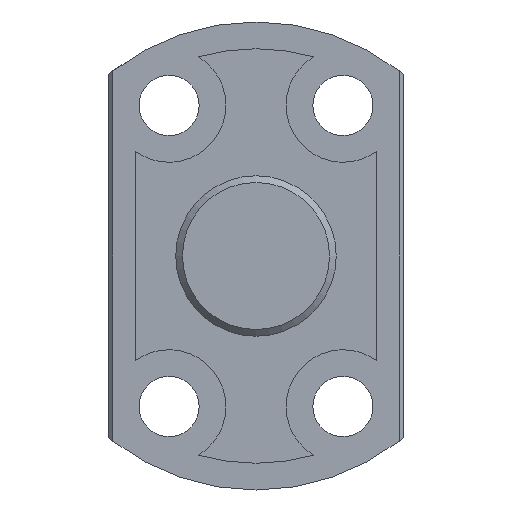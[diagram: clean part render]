
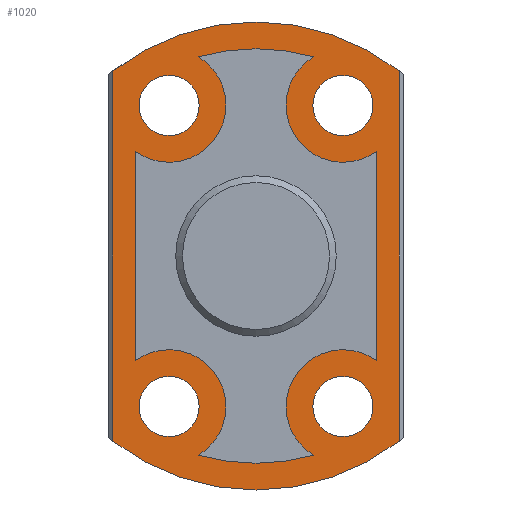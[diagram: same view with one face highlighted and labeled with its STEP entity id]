
A CAD part, left-side view. The second image highlights one B-rep face of the part: STEP entity #1020.
In plain terms, the highlighted planar face has unit normal (-1, 0, 0).
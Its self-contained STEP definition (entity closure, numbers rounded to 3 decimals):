
#238=CARTESIAN_POINT('',(150.0,-10.7,-13.848));
#239=VERTEX_POINT('',#238);
#257=CARTESIAN_POINT('',(150.0,-10.7,13.848));
#258=VERTEX_POINT('',#257);
#266=CARTESIAN_POINT('',(150.0,-10.7,13.848));
#267=DIRECTION('',(0.0,0.0,-1.0));
#268=VECTOR('',#267,27.695);
#269=LINE('',#266,#268);
#270=EDGE_CURVE('',#258,#239,#269,.T.);
#312=CARTESIAN_POINT('',(150.0,10.7,-13.848));
#313=VERTEX_POINT('',#312);
#314=CARTESIAN_POINT('',(150.0,0.0,0.0));
#315=DIRECTION('',(1.0,0.0,0.0));
#316=DIRECTION('',(0.0,1.0,0.0));
#317=AXIS2_PLACEMENT_3D('',#314,#315,#316);
#318=CIRCLE('',#317,17.5);
#319=EDGE_CURVE('',#239,#313,#318,.T.);
#372=CARTESIAN_POINT('',(150.0,10.7,13.848));
#373=VERTEX_POINT('',#372);
#390=CARTESIAN_POINT('',(150.0,10.7,-13.848));
#391=DIRECTION('',(0.0,0.0,1.0));
#392=VECTOR('',#391,27.695);
#393=LINE('',#390,#392);
#394=EDGE_CURVE('',#313,#373,#393,.T.);
#457=CARTESIAN_POINT('',(150.0,0.0,0.0));
#458=DIRECTION('',(1.0,0.0,0.0));
#459=DIRECTION('',(0.0,1.0,0.0));
#460=AXIS2_PLACEMENT_3D('',#457,#458,#459);
#461=CIRCLE('',#460,17.5);
#462=EDGE_CURVE('',#373,#258,#461,.T.);
#662=CARTESIAN_POINT('',(150.0,-4.297,-14.893));
#663=VERTEX_POINT('',#662);
#670=CARTESIAN_POINT('',(150.0,-9.,-7.821));
#671=VERTEX_POINT('',#670);
#672=CARTESIAN_POINT('',(150.0,-6.5,-11.258));
#673=DIRECTION('',(-1.0,0.0,0.0));
#674=DIRECTION('',(0.0,1.0,0.0));
#675=AXIS2_PLACEMENT_3D('',#672,#673,#674);
#676=CIRCLE('',#675,4.25);
#677=EDGE_CURVE('',#671,#663,#676,.T.);
#694=CARTESIAN_POINT('',(150.0,-9.,7.821));
#695=VERTEX_POINT('',#694);
#702=CARTESIAN_POINT('',(150.0,-4.297,14.893));
#703=VERTEX_POINT('',#702);
#704=CARTESIAN_POINT('',(150.0,-6.5,11.258));
#705=DIRECTION('',(-1.0,0.0,0.0));
#706=DIRECTION('',(0.0,1.0,0.0));
#707=AXIS2_PLACEMENT_3D('',#704,#705,#706);
#708=CIRCLE('',#707,4.25);
#709=EDGE_CURVE('',#703,#695,#708,.T.);
#726=CARTESIAN_POINT('',(150.0,9.,7.821));
#727=VERTEX_POINT('',#726);
#735=CARTESIAN_POINT('',(150.0,4.297,14.893));
#736=VERTEX_POINT('',#735);
#743=CARTESIAN_POINT('',(150.0,6.5,11.258));
#744=DIRECTION('',(-1.0,0.0,0.0));
#745=DIRECTION('',(0.0,1.0,0.0));
#746=AXIS2_PLACEMENT_3D('',#743,#744,#745);
#747=CIRCLE('',#746,4.25);
#748=EDGE_CURVE('',#727,#736,#747,.T.);
#758=CARTESIAN_POINT('',(150.0,9.,-7.821));
#759=VERTEX_POINT('',#758);
#766=CARTESIAN_POINT('',(150.0,4.297,-14.893));
#767=VERTEX_POINT('',#766);
#768=CARTESIAN_POINT('',(150.0,6.5,-11.258));
#769=DIRECTION('',(-1.0,0.0,0.0));
#770=DIRECTION('',(0.0,1.0,0.0));
#771=AXIS2_PLACEMENT_3D('',#768,#769,#770);
#772=CIRCLE('',#771,4.25);
#773=EDGE_CURVE('',#767,#759,#772,.T.);
#791=CARTESIAN_POINT('',(150.0,-9.,7.821));
#792=DIRECTION('',(0.0,0.0,-1.0));
#793=VECTOR('',#792,15.643);
#794=LINE('',#791,#793);
#795=EDGE_CURVE('',#695,#671,#794,.T.);
#808=CARTESIAN_POINT('',(150.0,0.0,0.0));
#809=DIRECTION('',(1.0,0.0,0.0));
#810=DIRECTION('',(0.0,1.0,0.0));
#811=AXIS2_PLACEMENT_3D('',#808,#809,#810);
#812=CIRCLE('',#811,15.5);
#813=EDGE_CURVE('',#736,#703,#812,.T.);
#826=CARTESIAN_POINT('',(150.0,9.,-7.821));
#827=DIRECTION('',(0.0,0.0,1.0));
#828=VECTOR('',#827,15.643);
#829=LINE('',#826,#828);
#830=EDGE_CURVE('',#759,#727,#829,.T.);
#845=CARTESIAN_POINT('',(150.0,0.0,0.0));
#846=DIRECTION('',(1.0,0.0,0.0));
#847=DIRECTION('',(0.0,1.0,0.0));
#848=AXIS2_PLACEMENT_3D('',#845,#846,#847);
#849=CIRCLE('',#848,15.5);
#850=EDGE_CURVE('',#663,#767,#849,.T.);
#863=CARTESIAN_POINT('',(150.0,8.75,-11.258));
#864=VERTEX_POINT('',#863);
#865=CARTESIAN_POINT('',(150.0,6.5,-11.258));
#866=DIRECTION('',(1.0,0.0,0.0));
#867=DIRECTION('',(0.0,1.0,0.0));
#868=AXIS2_PLACEMENT_3D('',#865,#866,#867);
#869=CIRCLE('',#868,2.25);
#870=EDGE_CURVE('',#864,#864,#869,.T.);
#883=CARTESIAN_POINT('',(150.0,8.75,11.258));
#884=VERTEX_POINT('',#883);
#885=CARTESIAN_POINT('',(150.0,6.5,11.258));
#886=DIRECTION('',(1.0,0.0,0.0));
#887=DIRECTION('',(0.0,1.0,0.0));
#888=AXIS2_PLACEMENT_3D('',#885,#886,#887);
#889=CIRCLE('',#888,2.25);
#890=EDGE_CURVE('',#884,#884,#889,.T.);
#903=CARTESIAN_POINT('',(150.0,-4.25,11.258));
#904=VERTEX_POINT('',#903);
#905=CARTESIAN_POINT('',(150.0,-6.5,11.258));
#906=DIRECTION('',(1.0,0.0,0.0));
#907=DIRECTION('',(0.0,1.0,0.0));
#908=AXIS2_PLACEMENT_3D('',#905,#906,#907);
#909=CIRCLE('',#908,2.25);
#910=EDGE_CURVE('',#904,#904,#909,.T.);
#923=CARTESIAN_POINT('',(150.0,-4.25,-11.258));
#924=VERTEX_POINT('',#923);
#925=CARTESIAN_POINT('',(150.0,-6.5,-11.258));
#926=DIRECTION('',(1.0,0.0,0.0));
#927=DIRECTION('',(0.0,1.0,0.0));
#928=AXIS2_PLACEMENT_3D('',#925,#926,#927);
#929=CIRCLE('',#928,2.25);
#930=EDGE_CURVE('',#924,#924,#929,.T.);
#987=CARTESIAN_POINT('',(150.0,0.0,0.0));
#988=DIRECTION('',(-1.0,0.0,0.0));
#989=DIRECTION('',(0.0,0.0,1.0));
#990=AXIS2_PLACEMENT_3D('',#987,#988,#989);
#991=PLANE('',#990);
#992=ORIENTED_EDGE('',*,*,#270,.F.);
#993=ORIENTED_EDGE('',*,*,#462,.F.);
#994=ORIENTED_EDGE('',*,*,#394,.F.);
#995=ORIENTED_EDGE('',*,*,#319,.F.);
#996=EDGE_LOOP('',(#992,#993,#994,#995));
#997=FACE_OUTER_BOUND('',#996,.T.);
#998=ORIENTED_EDGE('',*,*,#677,.T.);
#999=ORIENTED_EDGE('',*,*,#850,.T.);
#1000=ORIENTED_EDGE('',*,*,#773,.T.);
#1001=ORIENTED_EDGE('',*,*,#830,.T.);
#1002=ORIENTED_EDGE('',*,*,#748,.T.);
#1003=ORIENTED_EDGE('',*,*,#813,.T.);
#1004=ORIENTED_EDGE('',*,*,#709,.T.);
#1005=ORIENTED_EDGE('',*,*,#795,.T.);
#1006=EDGE_LOOP('',(#998,#999,#1000,#1001,#1002,#1003,#1004,#1005));
#1007=FACE_BOUND('',#1006,.T.);
#1008=ORIENTED_EDGE('',*,*,#870,.T.);
#1009=EDGE_LOOP('',(#1008));
#1010=FACE_BOUND('',#1009,.T.);
#1011=ORIENTED_EDGE('',*,*,#890,.T.);
#1012=EDGE_LOOP('',(#1011));
#1013=FACE_BOUND('',#1012,.T.);
#1014=ORIENTED_EDGE('',*,*,#910,.T.);
#1015=EDGE_LOOP('',(#1014));
#1016=FACE_BOUND('',#1015,.T.);
#1017=ORIENTED_EDGE('',*,*,#930,.T.);
#1018=EDGE_LOOP('',(#1017));
#1019=FACE_BOUND('',#1018,.T.);
#1020=ADVANCED_FACE('',(#997,#1007,#1010,#1013,#1016,#1019),#991,.T.);
